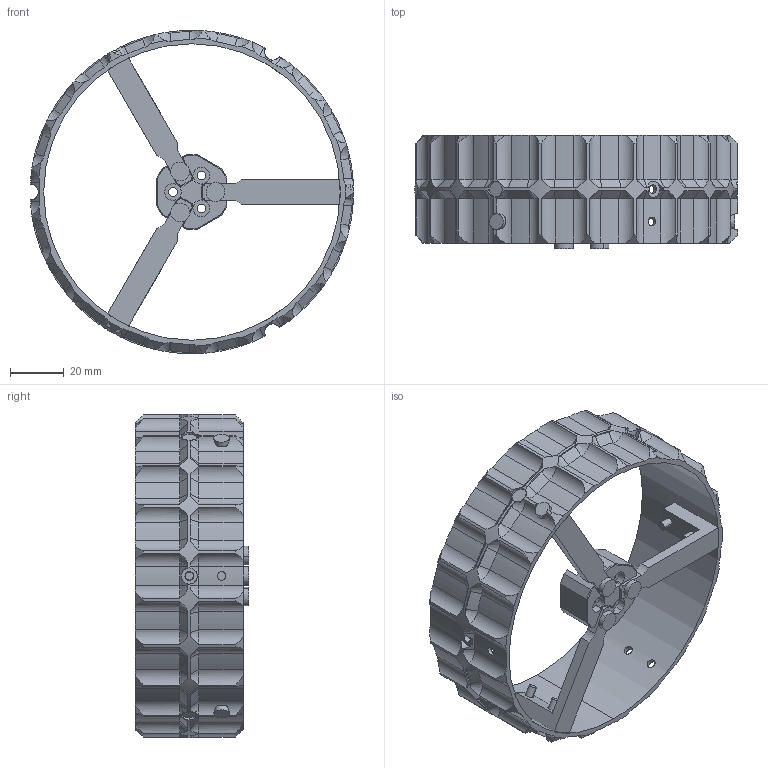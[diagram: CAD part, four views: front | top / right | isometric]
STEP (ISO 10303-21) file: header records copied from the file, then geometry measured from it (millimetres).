
FILE_DESCRIPTION (( 'STEP AP214' ), '1' );
FILE_NAME ('Endine_ratas.STEP', '2025-05-19T12:14:14', ( '' ), ( '' ), 'SwSTEP 2.0', 'SolidWorks 2024', '' );
FILE_SCHEMA (( 'AUTOMOTIVE_DESIGN' ));
Length unit declared in the file: millimetre
Products named in the file (6): Endine_ratas; M3_12mm; M4; KK.021.003.Motor_hub_hexagon_alu; KK.005.008.Wheels_v8_tire_OD120; KK.022.004.Spork_for_old_hub
Assembly tree (14 placements, depth 2):
  Endine_ratas
    KK.005.008.Wheels_v8_tire_OD120
    KK.021.003.Motor_hub_hexagon_alu
    KK.022.004.Spork_for_old_hub  x3
    M4  x3
    M3_12mm  x6
Bounding box: 119.93 x 42 x 120 mm (x, y, z)
Volume: 48129.9 mm3; surface area: 44167.3 mm2
Topology: 14 solids, 14 shells, 670 faces, 1754 edges, 1124 vertices
Faces by surface type: cylinder 296, plane 226, cone 148
Entity records: 20255 total; most frequent: CARTESIAN_POINT 5679, ORIENTED_EDGE 3124, DIRECTION 3014, EDGE_CURVE 1562, AXIS2_PLACEMENT_3D 1197, VERTEX_POINT 996, EDGE_LOOP 630, LINE 620
